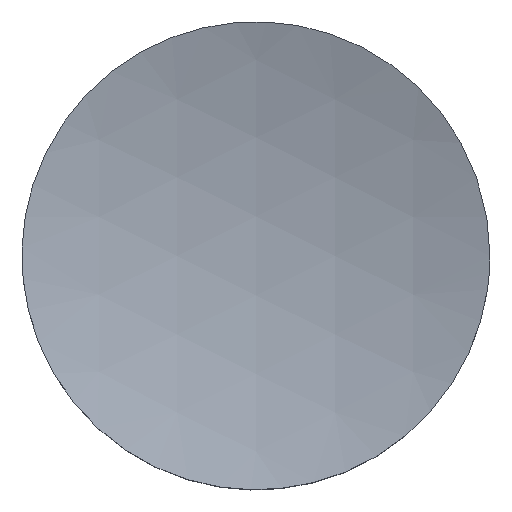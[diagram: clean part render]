
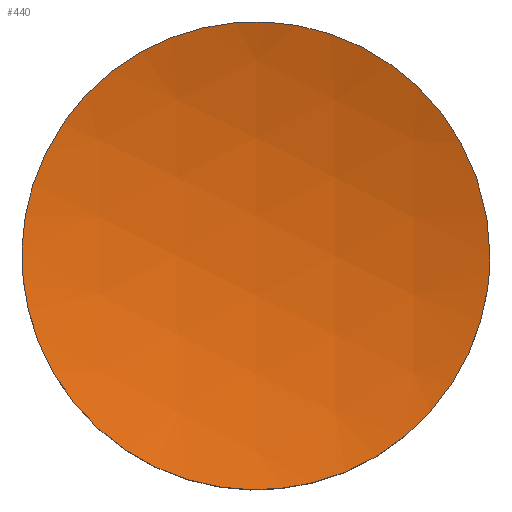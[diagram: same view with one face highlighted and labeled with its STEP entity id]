
A CAD part, top view. The second image highlights one B-rep face of the part: STEP entity #440.
In plain terms, the highlighted spherical face has radius 6.94 mm.
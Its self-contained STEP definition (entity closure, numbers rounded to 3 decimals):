
#230 = CARTESIAN_POINT ('', (2., 0., -45.606));
#240 = VERTEX_POINT ('', #230);
#250 = CARTESIAN_POINT ('', (2., 0., -45.606));
#260 = CARTESIAN_POINT ('', (2., 2., -45.606));
#270 = CARTESIAN_POINT ('', (0., 2., -45.606));
#280 = CARTESIAN_POINT ('', (-2., 2., -45.606));
#290 = CARTESIAN_POINT ('', (-2., 0., -45.606));
#300 = CARTESIAN_POINT ('', (-2., -2., -45.606));
#310 = CARTESIAN_POINT ('', (0., -2., -45.606));
#320 = CARTESIAN_POINT ('', (2., -2., -45.606));
#330 = CARTESIAN_POINT ('', (2., 0., -45.606));
#340 = (
   BOUNDED_CURVE ()
   B_SPLINE_CURVE (2, (#250, #260, #270, #280, #290, #300, #310, #320, #330), .UNSPECIFIED., .T., .U.)
   B_SPLINE_CURVE_WITH_KNOTS ((3, 2, 2, 2, 3), (0., 1.571, 3.142, 4.712, 6.283), .UNSPECIFIED.)
   CURVE ()
   GEOMETRIC_REPRESENTATION_ITEM ()
   RATIONAL_B_SPLINE_CURVE ((1., 0.707, 1., 0.707, 1., 0.707, 1., 0.707, 1.))
   REPRESENTATION_ITEM ('')
);
#350 = EDGE_CURVE ('', #240, #240, #340, .T.);
#360 = ORIENTED_EDGE ('', *, *, #350, .T.);
#370 = EDGE_LOOP ('', (#360));
#380 = FACE_OUTER_BOUND ('', #370, .T.);
#390 = CARTESIAN_POINT ('', (0., 0., -38.96));
#400 = DIRECTION ('', (-1., 0., 0.));
#410 = DIRECTION ('', (0., 1., 0.));
#420 = AXIS2_PLACEMENT_3D ('', #390, #400, #410);
#430 = SPHERICAL_SURFACE ('', #420, 6.94);
#440 = ADVANCED_FACE ('', (#380), #430, .F.);
